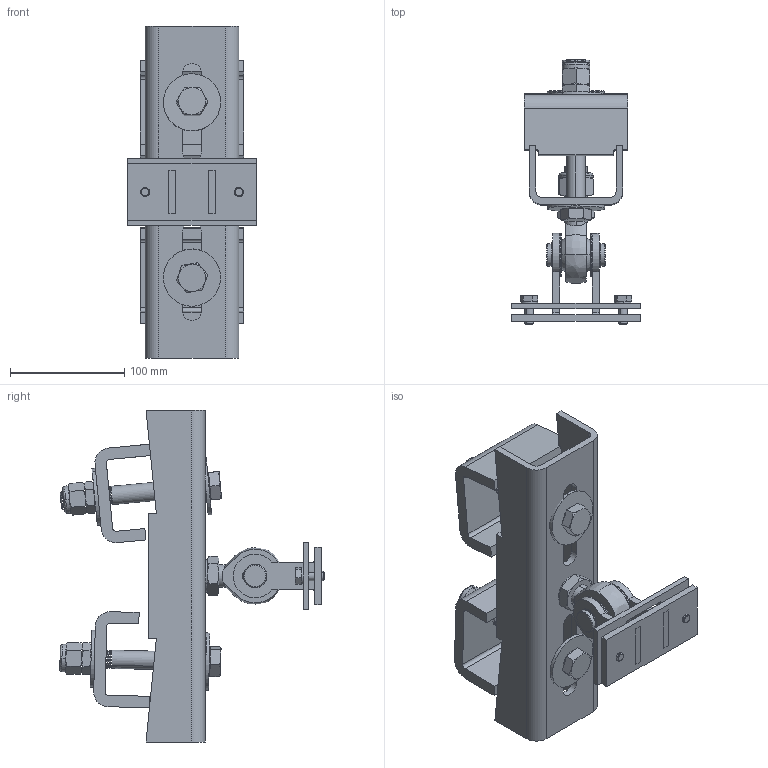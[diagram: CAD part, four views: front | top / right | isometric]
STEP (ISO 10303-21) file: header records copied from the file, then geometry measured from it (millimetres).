
FILE_DESCRIPTION (( 'STEP AP203' ), '1' );
FILE_NAME ('900.100.101.STEP', '2016-05-24T07:47:57', ( '' ), ( '' ), 'SwSTEP 2.0', 'SolidWorks 2016', '' );
FILE_SCHEMA (( 'CONFIG_CONTROL_DESIGN' ));
Length unit declared in the file: millimetre
Products named in the file (1): 900.100.101
Bounding box: 112 x 230.99 x 290 mm (x, y, z)
Surface area: 237209 mm2 (no closed solid volume)
Topology: 0 solids, 48 shells, 388 faces, 1072 edges, 715 vertices
Faces by surface type: plane 177, cylinder 102, cone 92, bspline 17
Entity records: 13587 total; most frequent: CARTESIAN_POINT 3853, DIRECTION 2042, ORIENTED_EDGE 1828, EDGE_CURVE 1072, AXIS2_PLACEMENT_3D 780, VERTEX_POINT 715, LINE 482, VECTOR 482
